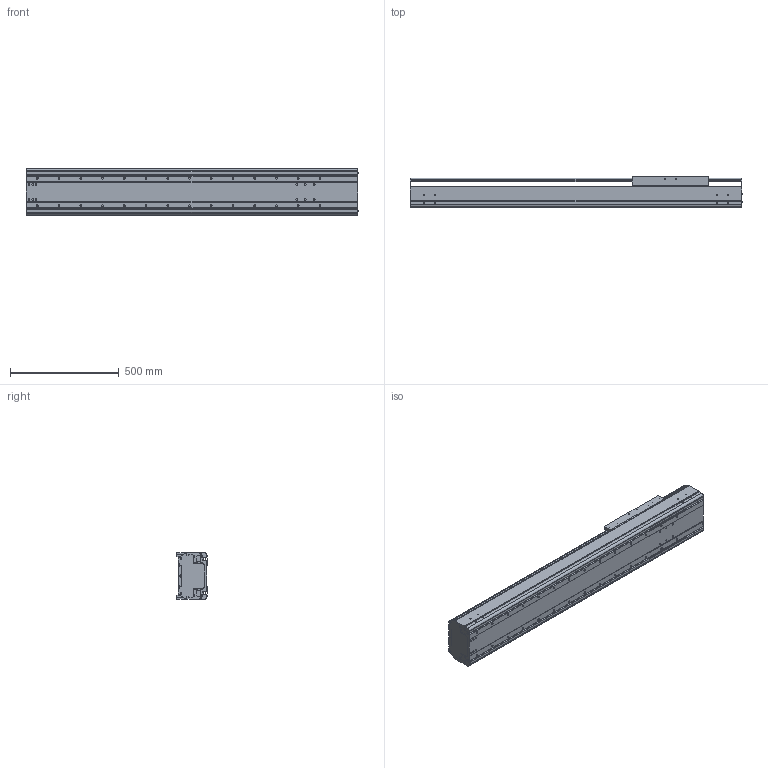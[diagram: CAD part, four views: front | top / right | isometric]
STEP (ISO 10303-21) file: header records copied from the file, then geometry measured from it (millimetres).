
FILE_DESCRIPTION((''),'2;1');
FILE_NAME('BE60J-ST-L_B-95_IGS_PRT','2017-06-18T',(' '),(''),'PRO/ENGINEER BY PARAMETRIC TECHNOLOGY CORPORATION, 2015030','PRO/ENGINEER BY PARAMETRIC TECHNOLOGY CORPORATION, 2015030','');
FILE_SCHEMA(('CONFIG_CONTROL_DESIGN'));
Length unit declared in the file: millimetre
Products named in the file (1): BE60J-ST-L_B-95_IGS_PRT
Bounding box: 1527.4 x 140 x 214 mm (x, y, z)
Volume: 12372616.2 mm3; surface area: 3259231.7 mm2
Topology: 2 solids, 32 shells, 1137 faces, 3012 edges, 1938 vertices
Faces by surface type: plane 529, cylinder 500, cone 60, torus 24, sphere 24
Entity records: 35593 total; most frequent: CARTESIAN_POINT 6664, DIRECTION 6202, ORIENTED_EDGE 5792, EDGE_CURVE 2952, AXIS2_PLACEMENT_3D 2230, VERTEX_POINT 1936, VECTOR 1742, LINE 1742
